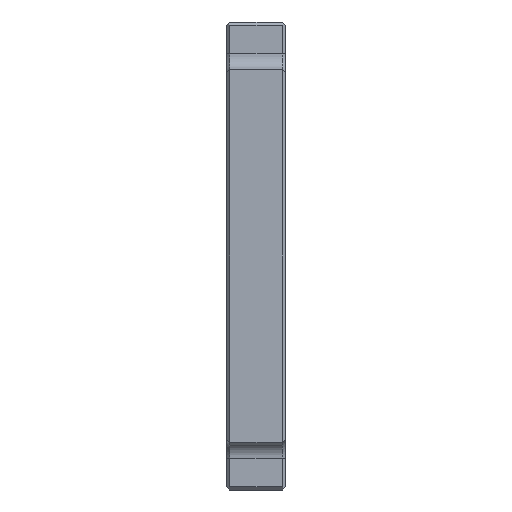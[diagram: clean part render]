
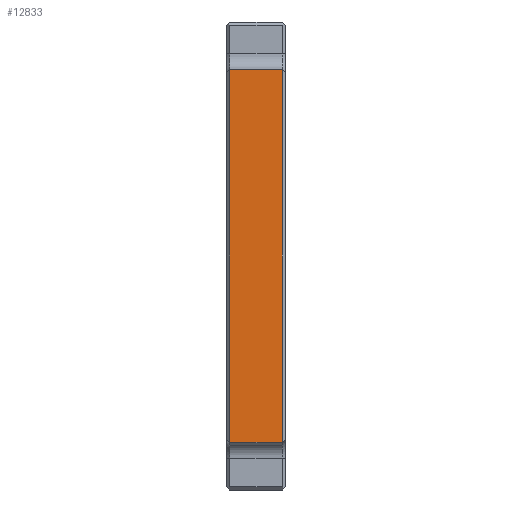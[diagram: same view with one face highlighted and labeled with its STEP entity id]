
A CAD part, left-side view. The second image highlights one B-rep face of the part: STEP entity #12833.
In plain terms, the highlighted planar face has unit normal (-1, 0, 0).
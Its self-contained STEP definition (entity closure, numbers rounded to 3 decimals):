
#502=DIRECTION('',(0.,1.,0.));
#503=VECTOR('',#502,8.525);
#504=CARTESIAN_POINT('',(-179.981,49.033,38.94));
#505=LINE('',#504,#503);
#510=DIRECTION('',(0.,0.,1.));
#511=VECTOR('',#510,60.706);
#512=CARTESIAN_POINT('',(-179.981,49.033,-21.766));
#513=LINE('',#512,#511);
#8371=DIRECTION('',(0.,-1.,0.));
#8372=VECTOR('',#8371,8.525);
#8373=CARTESIAN_POINT('',(-179.981,57.558,
-21.766));
#8374=LINE('',#8373,#8372);
#8379=DIRECTION('',(0.,0.,-1.));
#8380=VECTOR('',#8379,60.706);
#8381=CARTESIAN_POINT('',(-179.981,57.558,38.94));
#8382=LINE('',#8381,#8380);
#11683=CARTESIAN_POINT('',(-179.981,49.033,
38.94));
#11685=VERTEX_POINT('',#11683);
#11687=CARTESIAN_POINT('',(-179.981,57.558,
38.94));
#11688=VERTEX_POINT('',#11687);
#11691=CARTESIAN_POINT('',(-179.981,49.033,
-21.766));
#11692=VERTEX_POINT('',#11691);
#11693=CARTESIAN_POINT('',(-179.981,57.558,
-21.766));
#11694=VERTEX_POINT('',#11693);
#12819=CARTESIAN_POINT('',(-179.981,58.058,
38.94));
#12820=DIRECTION('',(1.,0.,0.));
#12821=DIRECTION('',(0.,0.,-1.));
#12822=AXIS2_PLACEMENT_3D('',#12819,#12820,#12821);
#12823=PLANE('',#12822);
#12825=ORIENTED_EDGE('',*,*,#12824,.F.);
#12827=ORIENTED_EDGE('',*,*,#12826,.F.);
#12829=ORIENTED_EDGE('',*,*,#12828,.F.);
#12830=ORIENTED_EDGE('',*,*,#12812,.F.);
#12831=EDGE_LOOP('',(#12825,#12827,#12829,#12830));
#12832=FACE_OUTER_BOUND('',#12831,.F.);
#12833=ADVANCED_FACE('',(#12832),#12823,.F.);
#12812=EDGE_CURVE('',#11685,#11688,#505,.T.);
#12824=EDGE_CURVE('',#11692,#11685,#513,.T.);
#12826=EDGE_CURVE('',#11694,#11692,#8374,.T.);
#12828=EDGE_CURVE('',#11688,#11694,#8382,.T.);
